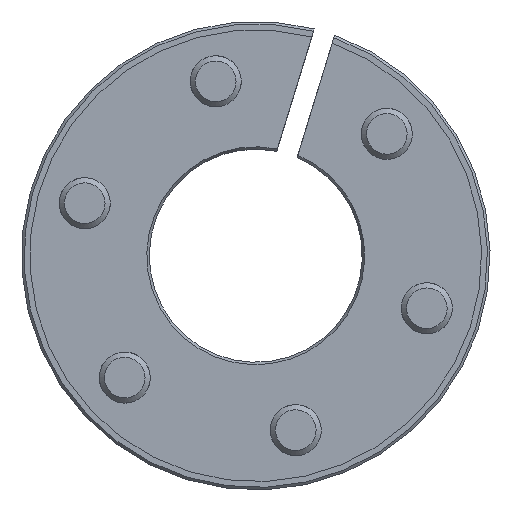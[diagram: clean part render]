
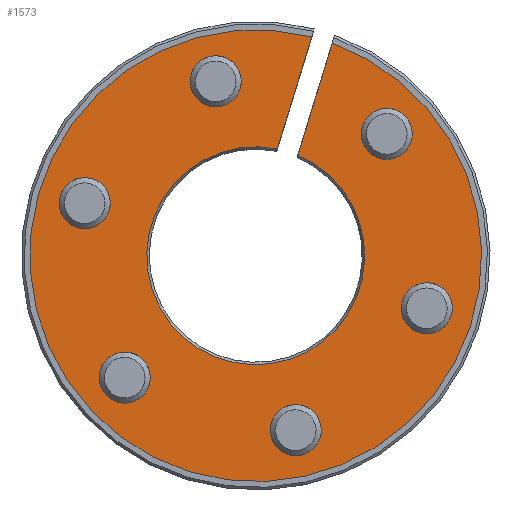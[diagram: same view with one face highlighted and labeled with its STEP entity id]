
A CAD part, left-side view. The second image highlights one B-rep face of the part: STEP entity #1573.
In plain terms, the highlighted planar face has unit normal (-1, 0, 0).
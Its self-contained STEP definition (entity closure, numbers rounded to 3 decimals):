
#194=LINE('',#2723,#250);
#200=LINE('',#2759,#256);
#250=VECTOR('',#2165,13.758);
#256=VECTOR('',#2173,13.758);
#288=PLANE('',#1764);
#375=FACE_BOUND('',#644,.T.);
#376=FACE_BOUND('',#645,.T.);
#377=FACE_BOUND('',#646,.T.);
#378=FACE_BOUND('',#647,.T.);
#379=FACE_BOUND('',#648,.T.);
#380=FACE_BOUND('',#649,.T.);
#467=FACE_OUTER_BOUND('',#643,.T.);
#643=EDGE_LOOP('',(#1429,#1430,#1431,#1432));
#644=EDGE_LOOP('',(#1433));
#645=EDGE_LOOP('',(#1434));
#646=EDGE_LOOP('',(#1435));
#647=EDGE_LOOP('',(#1436));
#648=EDGE_LOOP('',(#1437));
#649=EDGE_LOOP('',(#1438));
#729=CIRCLE('',#1739,3.);
#731=CIRCLE('',#1742,3.);
#733=CIRCLE('',#1745,3.);
#735=CIRCLE('',#1750,3.);
#737=CIRCLE('',#1753,3.);
#739=CIRCLE('',#1756,3.);
#740=CIRCLE('',#1758,26.515);
#744=CIRCLE('',#1765,12.789);
#868=VERTEX_POINT('',#2706);
#870=VERTEX_POINT('',#2711);
#872=VERTEX_POINT('',#2716);
#873=VERTEX_POINT('',#2719);
#875=VERTEX_POINT('',#2722);
#881=VERTEX_POINT('',#2741);
#886=VERTEX_POINT('',#2755);
#888=VERTEX_POINT('',#2763);
#890=VERTEX_POINT('',#2768);
#892=VERTEX_POINT('',#2773);
#1047=EDGE_CURVE('',#868,#868,#729,.T.);
#1049=EDGE_CURVE('',#870,#870,#731,.T.);
#1051=EDGE_CURVE('',#872,#872,#733,.T.);
#1053=EDGE_CURVE('',#875,#873,#194,.T.);
#1065=EDGE_CURVE('',#881,#886,#200,.T.);
#1067=EDGE_CURVE('',#888,#888,#735,.T.);
#1069=EDGE_CURVE('',#890,#890,#737,.T.);
#1071=EDGE_CURVE('',#892,#892,#739,.T.);
#1072=EDGE_CURVE('',#873,#881,#740,.T.);
#1076=EDGE_CURVE('',#875,#886,#744,.T.);
#1429=ORIENTED_EDGE('',*,*,#1065,.T.);
#1430=ORIENTED_EDGE('',*,*,#1076,.F.);
#1431=ORIENTED_EDGE('',*,*,#1053,.T.);
#1432=ORIENTED_EDGE('',*,*,#1072,.T.);
#1433=ORIENTED_EDGE('',*,*,#1071,.T.);
#1434=ORIENTED_EDGE('',*,*,#1069,.T.);
#1435=ORIENTED_EDGE('',*,*,#1067,.T.);
#1436=ORIENTED_EDGE('',*,*,#1051,.T.);
#1437=ORIENTED_EDGE('',*,*,#1049,.T.);
#1438=ORIENTED_EDGE('',*,*,#1047,.T.);
#1573=ADVANCED_FACE('',(#467,#375,#376,#377,#378,#379,#380),#288,.T.);
#1739=AXIS2_PLACEMENT_3D('',#2707,#2148,#2149);
#1742=AXIS2_PLACEMENT_3D('',#2712,#2154,#2155);
#1745=AXIS2_PLACEMENT_3D('',#2717,#2160,#2161);
#1750=AXIS2_PLACEMENT_3D('',#2764,#2178,#2179);
#1753=AXIS2_PLACEMENT_3D('',#2769,#2184,#2185);
#1756=AXIS2_PLACEMENT_3D('',#2774,#2190,#2191);
#1758=AXIS2_PLACEMENT_3D('',#2776,#2194,#2195);
#1764=AXIS2_PLACEMENT_3D('',#2782,#2206,#2207);
#1765=AXIS2_PLACEMENT_3D('',#2783,#2208,#2209);
#2148=DIRECTION('center_axis',(1.,0.,0.));
#2149=DIRECTION('ref_axis',(0.,0.,-1.));
#2154=DIRECTION('center_axis',(1.,0.,0.));
#2155=DIRECTION('ref_axis',(0.,0.,-1.));
#2160=DIRECTION('center_axis',(1.,0.,0.));
#2161=DIRECTION('ref_axis',(0.,0.,-1.));
#2165=DIRECTION('',(0.,0.,-1.));
#2173=DIRECTION('',(0.,0.,1.));
#2178=DIRECTION('center_axis',(1.,0.,0.));
#2179=DIRECTION('ref_axis',(0.,0.,-1.));
#2184=DIRECTION('center_axis',(1.,0.,0.));
#2185=DIRECTION('ref_axis',(0.,0.,-1.));
#2190=DIRECTION('center_axis',(1.,0.,0.));
#2191=DIRECTION('ref_axis',(0.,0.,-1.));
#2194=DIRECTION('center_axis',(-1.,0.,0.));
#2195=DIRECTION('ref_axis',(0.,-1.,0.));
#2206=DIRECTION('center_axis',(-1.,0.,0.));
#2207=DIRECTION('ref_axis',(0.,0.,1.));
#2208=DIRECTION('center_axis',(-1.,0.,0.));
#2209=DIRECTION('ref_axis',(0.,-1.,0.));
#2706=CARTESIAN_POINT('',(5.665,7.149,3.));
#2707=CARTESIAN_POINT('Origin',(5.665,7.149,0.));
#2711=CARTESIAN_POINT('',(5.665,17.649,-15.187));
#2712=CARTESIAN_POINT('Origin',(5.665,17.649,-18.187));
#2716=CARTESIAN_POINT('',(5.665,38.649,21.187));
#2717=CARTESIAN_POINT('Origin',(5.665,38.649,18.187));
#2719=CARTESIAN_POINT('',(5.665,26.899,-26.486));
#2722=CARTESIAN_POINT('',(5.665,26.899,-12.727));
#2723=CARTESIAN_POINT('',(5.665,26.899,-5.25));
#2741=CARTESIAN_POINT('',(5.665,29.399,-26.486));
#2755=CARTESIAN_POINT('',(5.665,29.399,-12.727));
#2759=CARTESIAN_POINT('',(5.665,29.399,-14.683));
#2763=CARTESIAN_POINT('',(5.665,49.149,3.));
#2764=CARTESIAN_POINT('Origin',(5.665,49.149,0.));
#2768=CARTESIAN_POINT('',(5.665,17.649,21.187));
#2769=CARTESIAN_POINT('Origin',(5.665,17.649,18.187));
#2773=CARTESIAN_POINT('',(5.665,38.649,-15.187));
#2774=CARTESIAN_POINT('Origin',(5.665,38.649,-18.187));
#2776=CARTESIAN_POINT('Origin',(5.665,28.149,0.));
#2782=CARTESIAN_POINT('Origin',(5.665,8.497,0.));
#2783=CARTESIAN_POINT('Origin',(5.665,28.149,0.));
